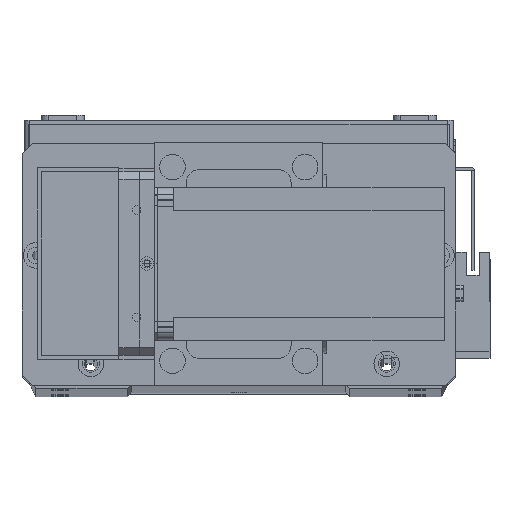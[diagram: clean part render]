
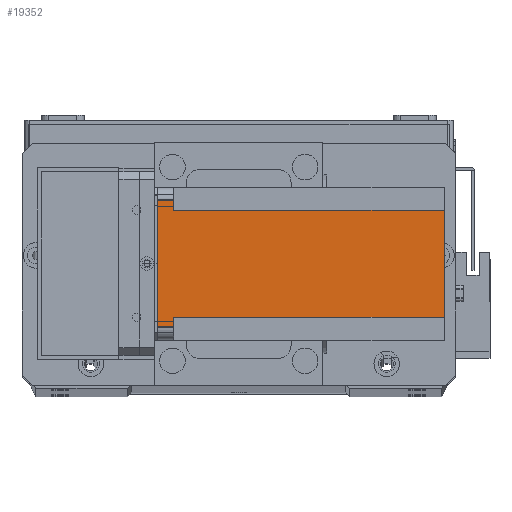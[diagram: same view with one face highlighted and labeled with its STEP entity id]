
A CAD part, top view. The second image highlights one B-rep face of the part: STEP entity #19352.
In plain terms, the highlighted planar face has unit normal (0, 0, 1) as drawn and (-1, 0, 0) by its records, which use the part's own axes.
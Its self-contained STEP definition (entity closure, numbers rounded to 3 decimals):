
#892 = ORIENTED_EDGE ( 'NONE', *, *, #15660, .T. ) ;
#1030 = VECTOR ( 'NONE', #26328, 1000. ) ;
#1819 = LINE ( 'NONE', #31321, #1030 ) ;
#1996 = VERTEX_POINT ( 'NONE', #13071 ) ;
#2118 = CARTESIAN_POINT ( 'NONE',  ( 0., 0., 0. ) ) ;
#2198 = LINE ( 'NONE', #12516, #8937 ) ;
#3286 = VECTOR ( 'NONE', #14904, 1000. ) ;
#3899 = CARTESIAN_POINT ( 'NONE',  ( 0., 55., -112.5 ) ) ;
#3915 = DIRECTION ( 'NONE',  ( 0., 0., -1. ) ) ;
#4379 = EDGE_CURVE ( 'NONE', #27361, #1996, #21268, .T. ) ;
#4566 = VERTEX_POINT ( 'NONE', #28351 ) ;
#5043 = CARTESIAN_POINT ( 'NONE',  ( 0., 9., -6.5 ) ) ;
#5996 = LINE ( 'NONE', #19177, #25550 ) ;
#6071 = CARTESIAN_POINT ( 'NONE',  ( 0., 60., -6.5 ) ) ;
#7410 = CARTESIAN_POINT ( 'NONE',  ( 0., 55., 0. ) ) ;
#8149 = CARTESIAN_POINT ( 'NONE',  ( 0., 0., -112.5 ) ) ;
#8647 = DIRECTION ( 'NONE',  ( 0., 1., 0. ) ) ;
#8745 = EDGE_CURVE ( 'NONE', #27638, #4566, #18592, .T. ) ;
#8937 = VECTOR ( 'NONE', #30356, 1000. ) ;
#9546 = AXIS2_PLACEMENT_3D ( 'NONE', #22060, #27196, #11875 ) ;
#10195 = CARTESIAN_POINT ( 'NONE',  ( 0., 51., -112.5 ) ) ;
#10460 = CARTESIAN_POINT ( 'NONE',  ( 0., 5., 0. ) ) ;
#11875 = DIRECTION ( 'NONE',  ( 0., -1., 0. ) ) ;
#12181 = VERTEX_POINT ( 'NONE', #17017 ) ;
#12311 = LINE ( 'NONE', #6071, #24318 ) ;
#12516 = CARTESIAN_POINT ( 'NONE',  ( 0., 5., -112.5 ) ) ;
#12820 = ORIENTED_EDGE ( 'NONE', *, *, #25151, .F. ) ;
#13071 = CARTESIAN_POINT ( 'NONE',  ( 0., 55., -6.5 ) ) ;
#14130 = DIRECTION ( 'NONE',  ( 0., 0., -1. ) ) ;
#14683 = EDGE_CURVE ( 'NONE', #27054, #16316, #1819, .T. ) ;
#14904 = DIRECTION ( 'NONE',  ( 0., -1., 0. ) ) ;
#15240 = LINE ( 'NONE', #2118, #3286 ) ;
#15597 = VECTOR ( 'NONE', #23453, 1000. ) ;
#15660 = EDGE_CURVE ( 'NONE', #27054, #32436, #2198, .T. ) ;
#16214 = CARTESIAN_POINT ( 'NONE',  ( 0., 51., -112.5 ) ) ;
#16242 = ORIENTED_EDGE ( 'NONE', *, *, #30532, .T. ) ;
#16316 = VERTEX_POINT ( 'NONE', #5043 ) ;
#17017 = CARTESIAN_POINT ( 'NONE',  ( 0., 9., -112.5 ) ) ;
#17799 = VECTOR ( 'NONE', #30583, 1000. ) ;
#17811 = ORIENTED_EDGE ( 'NONE', *, *, #24764, .F. ) ;
#18592 = LINE ( 'NONE', #10195, #17799 ) ;
#18765 = FACE_OUTER_BOUND ( 'NONE', #32247, .T. ) ;
#18984 = ORIENTED_EDGE ( 'NONE', *, *, #4379, .T. ) ;
#19177 = CARTESIAN_POINT ( 'NONE',  ( 0., 9., -112.5 ) ) ;
#19282 = EDGE_CURVE ( 'NONE', #16316, #12181, #5996, .T. ) ;
#19352 = ADVANCED_FACE ( 'NONE', ( #18765 ), #24516, .T. ) ;
#20368 = ORIENTED_EDGE ( 'NONE', *, *, #19282, .F. ) ;
#21268 = LINE ( 'NONE', #3899, #27268 ) ;
#22060 = CARTESIAN_POINT ( 'NONE',  ( 0., 0., -112.5 ) ) ;
#23453 = DIRECTION ( 'NONE',  ( 0., -1., 0. ) ) ;
#24318 = VECTOR ( 'NONE', #8647, 1000. ) ;
#24516 = PLANE ( 'NONE',  #9546 ) ;
#24764 = EDGE_CURVE ( 'NONE', #27361, #32436, #15240, .T. ) ;
#25151 = EDGE_CURVE ( 'NONE', #4566, #1996, #12311, .T. ) ;
#25550 = VECTOR ( 'NONE', #3915, 1000. ) ;
#26328 = DIRECTION ( 'NONE',  ( 0., 1., 0. ) ) ;
#26608 = CARTESIAN_POINT ( 'NONE',  ( 0., 5., -6.5 ) ) ;
#27054 = VERTEX_POINT ( 'NONE', #26608 ) ;
#27196 = DIRECTION ( 'NONE',  ( -1., 0., 0. ) ) ;
#27268 = VECTOR ( 'NONE', #14130, 1000. ) ;
#27361 = VERTEX_POINT ( 'NONE', #7410 ) ;
#27638 = VERTEX_POINT ( 'NONE', #16214 ) ;
#28330 = LINE ( 'NONE', #8149, #15597 ) ;
#28351 = CARTESIAN_POINT ( 'NONE',  ( 0., 51., -6.5 ) ) ;
#29512 = ORIENTED_EDGE ( 'NONE', *, *, #8745, .F. ) ;
#30069 = ORIENTED_EDGE ( 'NONE', *, *, #14683, .F. ) ;
#30356 = DIRECTION ( 'NONE',  ( 0., 0., 1. ) ) ;
#30532 = EDGE_CURVE ( 'NONE', #27638, #12181, #28330, .T. ) ;
#30583 = DIRECTION ( 'NONE',  ( 0., 0., 1. ) ) ;
#31321 = CARTESIAN_POINT ( 'NONE',  ( 0., 0., -6.5 ) ) ;
#32247 = EDGE_LOOP ( 'NONE', ( #30069, #892, #17811, #18984, #12820, #29512, #16242, #20368 ) ) ;
#32436 = VERTEX_POINT ( 'NONE', #10460 ) ;
